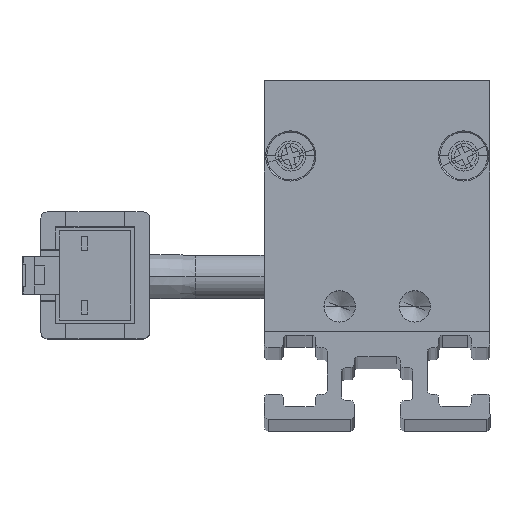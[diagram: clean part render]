
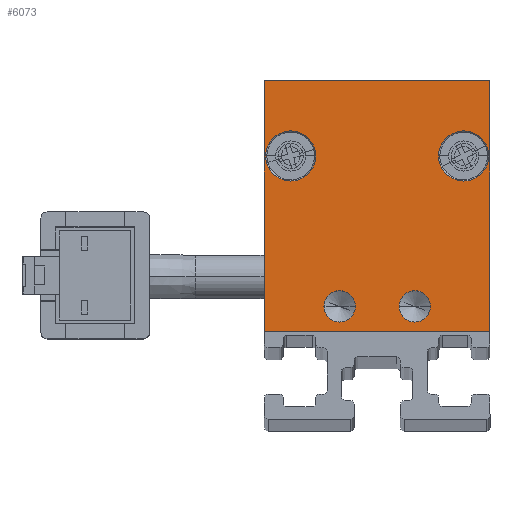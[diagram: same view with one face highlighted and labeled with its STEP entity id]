
A CAD part, top view. The second image highlights one B-rep face of the part: STEP entity #6073.
In plain terms, the highlighted planar face has unit normal (0, 0, 1) as drawn and (0, 0, -1) by its records, which use the part's own axes.
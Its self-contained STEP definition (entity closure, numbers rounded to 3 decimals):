
#51 = DIRECTION ( 'NONE',  ( 0., 0., -1. ) ) ;
#110 = DIRECTION ( 'NONE',  ( -1., 0., 0. ) ) ;
#255 = FACE_BOUND ( 'NONE', #12353, .T. ) ;
#258 = DIRECTION ( 'NONE',  ( 0., 0., -1. ) ) ;
#371 = CARTESIAN_POINT ( 'NONE',  ( 8.9, 14., -2.5 ) ) ;
#443 = LINE ( 'NONE', #3224, #928 ) ;
#786 = CARTESIAN_POINT ( 'NONE',  ( 4.25, 2., -2.5 ) ) ;
#811 = CIRCLE ( 'NONE', #7275, 1.25 ) ;
#928 = VECTOR ( 'NONE', #2283, 1000. ) ;
#1007 = CARTESIAN_POINT ( 'NONE',  ( 3., 2., -2.5 ) ) ;
#1041 = CARTESIAN_POINT ( 'NONE',  ( -9., 0., -2.5 ) ) ;
#1099 = DIRECTION ( 'NONE',  ( 0., 0., 1. ) ) ;
#1112 = VERTEX_POINT ( 'NONE', #12203 ) ;
#1139 = DIRECTION ( 'NONE',  ( -1., 0., 0. ) ) ;
#1171 = ORIENTED_EDGE ( 'NONE', *, *, #9872, .F. ) ;
#1220 = FACE_OUTER_BOUND ( 'NONE', #8906, .T. ) ;
#1250 = VERTEX_POINT ( 'NONE', #1859 ) ;
#1305 = AXIS2_PLACEMENT_3D ( 'NONE', #5720, #5783, #3805 ) ;
#1382 = VECTOR ( 'NONE', #8552, 1000. ) ;
#1694 = EDGE_CURVE ( 'NONE', #7102, #5171, #4685, .T. ) ;
#1786 = ORIENTED_EDGE ( 'NONE', *, *, #4493, .F. ) ;
#1817 = CARTESIAN_POINT ( 'NONE',  ( -3., 2., -2.5 ) ) ;
#1859 = CARTESIAN_POINT ( 'NONE',  ( -8.9, 14., -2.5 ) ) ;
#1937 = EDGE_CURVE ( 'NONE', #3406, #7102, #10231, .T. ) ;
#2283 = DIRECTION ( 'NONE',  ( 0., -1., 0. ) ) ;
#2353 = ORIENTED_EDGE ( 'NONE', *, *, #10318, .F. ) ;
#2516 = DIRECTION ( 'NONE',  ( 0., 0., -1. ) ) ;
#2657 = CIRCLE ( 'NONE', #9923, 1.25 ) ;
#2885 = ORIENTED_EDGE ( 'NONE', *, *, #6142, .F. ) ;
#2931 = AXIS2_PLACEMENT_3D ( 'NONE', #6252, #2516, #12043 ) ;
#2935 = CARTESIAN_POINT ( 'NONE',  ( 9., 0., -2.5 ) ) ;
#3016 = CIRCLE ( 'NONE', #3206, 1.25 ) ;
#3206 = AXIS2_PLACEMENT_3D ( 'NONE', #5951, #9804, #1139 ) ;
#3224 = CARTESIAN_POINT ( 'NONE',  ( -9., 20., -2.5 ) ) ;
#3232 = FACE_BOUND ( 'NONE', #5493, .T. ) ;
#3404 = VERTEX_POINT ( 'NONE', #786 ) ;
#3406 = VERTEX_POINT ( 'NONE', #2935 ) ;
#3485 = VECTOR ( 'NONE', #8760, 1000. ) ;
#3557 = EDGE_CURVE ( 'NONE', #6558, #4075, #5857, .T. ) ;
#3805 = DIRECTION ( 'NONE',  ( -1., 0., 0. ) ) ;
#4063 = PLANE ( 'NONE',  #7541 ) ;
#4075 = VERTEX_POINT ( 'NONE', #371 ) ;
#4197 = CARTESIAN_POINT ( 'NONE',  ( 9., 20., -2.5 ) ) ;
#4322 = ORIENTED_EDGE ( 'NONE', *, *, #12247, .F. ) ;
#4493 = EDGE_CURVE ( 'NONE', #8657, #1112, #2657, .T. ) ;
#4495 = DIRECTION ( 'NONE',  ( 0., 0., -1. ) ) ;
#4685 = LINE ( 'NONE', #8682, #1382 ) ;
#5171 = VERTEX_POINT ( 'NONE', #8221 ) ;
#5206 = DIRECTION ( 'NONE',  ( -1., 0., 0. ) ) ;
#5493 = EDGE_LOOP ( 'NONE', ( #1786, #5756 ) ) ;
#5685 = ORIENTED_EDGE ( 'NONE', *, *, #12265, .F. ) ;
#5720 = CARTESIAN_POINT ( 'NONE',  ( 6.9, 14., -2.5 ) ) ;
#5756 = ORIENTED_EDGE ( 'NONE', *, *, #10479, .F. ) ;
#5783 = DIRECTION ( 'NONE',  ( 0., 0., -1. ) ) ;
#5809 = VERTEX_POINT ( 'NONE', #8123 ) ;
#5857 = CIRCLE ( 'NONE', #9537, 2. ) ;
#5951 = CARTESIAN_POINT ( 'NONE',  ( 3., 2., -2.5 ) ) ;
#6073 = ADVANCED_FACE ( 'NONE', ( #7864, #9763, #255, #3232, #1220 ), #4063, .F. ) ;
#6142 = EDGE_CURVE ( 'NONE', #7528, #3406, #10936, .T. ) ;
#6252 = CARTESIAN_POINT ( 'NONE',  ( -6.9, 14., -2.5 ) ) ;
#6379 = VERTEX_POINT ( 'NONE', #9571 ) ;
#6432 = DIRECTION ( 'NONE',  ( 0., 0., -1. ) ) ;
#6440 = CARTESIAN_POINT ( 'NONE',  ( 9., 20., -2.5 ) ) ;
#6558 = VERTEX_POINT ( 'NONE', #7085 ) ;
#6592 = ORIENTED_EDGE ( 'NONE', *, *, #11885, .F. ) ;
#6762 = CIRCLE ( 'NONE', #1305, 2. ) ;
#6817 = CARTESIAN_POINT ( 'NONE',  ( -6.9, 14., -2.5 ) ) ;
#6863 = CARTESIAN_POINT ( 'NONE',  ( -9., 0., -2.5 ) ) ;
#6965 = CIRCLE ( 'NONE', #2931, 2. ) ;
#7085 = CARTESIAN_POINT ( 'NONE',  ( 4.9, 14., -2.5 ) ) ;
#7102 = VERTEX_POINT ( 'NONE', #4197 ) ;
#7275 = AXIS2_PLACEMENT_3D ( 'NONE', #1007, #51, #110 ) ;
#7278 = ORIENTED_EDGE ( 'NONE', *, *, #1694, .F. ) ;
#7528 = VERTEX_POINT ( 'NONE', #6863 ) ;
#7541 = AXIS2_PLACEMENT_3D ( 'NONE', #8939, #1099, #11813 ) ;
#7864 = FACE_BOUND ( 'NONE', #11743, .T. ) ;
#7957 = EDGE_CURVE ( 'NONE', #4075, #6558, #6762, .T. ) ;
#7998 = ORIENTED_EDGE ( 'NONE', *, *, #3557, .F. ) ;
#8008 = DIRECTION ( 'NONE',  ( -1., 0., 0. ) ) ;
#8123 = CARTESIAN_POINT ( 'NONE',  ( -4.9, 14., -2.5 ) ) ;
#8187 = ORIENTED_EDGE ( 'NONE', *, *, #1937, .F. ) ;
#8221 = CARTESIAN_POINT ( 'NONE',  ( -9., 20., -2.5 ) ) ;
#8393 = ORIENTED_EDGE ( 'NONE', *, *, #7957, .F. ) ;
#8409 = DIRECTION ( 'NONE',  ( 0., 1., 0. ) ) ;
#8552 = DIRECTION ( 'NONE',  ( -1., 0., 0. ) ) ;
#8631 = AXIS2_PLACEMENT_3D ( 'NONE', #9374, #4495, #10310 ) ;
#8657 = VERTEX_POINT ( 'NONE', #10692 ) ;
#8682 = CARTESIAN_POINT ( 'NONE',  ( -9., 20., -2.5 ) ) ;
#8760 = DIRECTION ( 'NONE',  ( 1., 0., 0. ) ) ;
#8823 = CIRCLE ( 'NONE', #8631, 1.25 ) ;
#8906 = EDGE_LOOP ( 'NONE', ( #2353, #7278, #8187, #2885 ) ) ;
#8939 = CARTESIAN_POINT ( 'NONE',  ( 0., 0., -2.5 ) ) ;
#8942 = CARTESIAN_POINT ( 'NONE',  ( 6.9, 14., -2.5 ) ) ;
#9374 = CARTESIAN_POINT ( 'NONE',  ( -3., 2., -2.5 ) ) ;
#9537 = AXIS2_PLACEMENT_3D ( 'NONE', #8942, #258, #5206 ) ;
#9571 = CARTESIAN_POINT ( 'NONE',  ( 1.75, 2., -2.5 ) ) ;
#9763 = FACE_BOUND ( 'NONE', #10471, .T. ) ;
#9804 = DIRECTION ( 'NONE',  ( 0., 0., -1. ) ) ;
#9872 = EDGE_CURVE ( 'NONE', #5809, #1250, #6965, .T. ) ;
#9923 = AXIS2_PLACEMENT_3D ( 'NONE', #1817, #6432, #10349 ) ;
#10231 = LINE ( 'NONE', #6440, #11275 ) ;
#10295 = AXIS2_PLACEMENT_3D ( 'NONE', #6817, #10656, #8008 ) ;
#10310 = DIRECTION ( 'NONE',  ( -1., 0., 0. ) ) ;
#10318 = EDGE_CURVE ( 'NONE', #5171, #7528, #443, .T. ) ;
#10349 = DIRECTION ( 'NONE',  ( -1., 0., 0. ) ) ;
#10471 = EDGE_LOOP ( 'NONE', ( #5685, #1171 ) ) ;
#10479 = EDGE_CURVE ( 'NONE', #1112, #8657, #8823, .T. ) ;
#10656 = DIRECTION ( 'NONE',  ( 0., 0., -1. ) ) ;
#10690 = CIRCLE ( 'NONE', #10295, 2. ) ;
#10692 = CARTESIAN_POINT ( 'NONE',  ( -4.25, 2., -2.5 ) ) ;
#10936 = LINE ( 'NONE', #1041, #3485 ) ;
#11275 = VECTOR ( 'NONE', #8409, 1000. ) ;
#11743 = EDGE_LOOP ( 'NONE', ( #7998, #8393 ) ) ;
#11813 = DIRECTION ( 'NONE',  ( 1., 0., 0. ) ) ;
#11885 = EDGE_CURVE ( 'NONE', #3404, #6379, #3016, .T. ) ;
#12043 = DIRECTION ( 'NONE',  ( -1., 0., 0. ) ) ;
#12203 = CARTESIAN_POINT ( 'NONE',  ( -1.75, 2., -2.5 ) ) ;
#12247 = EDGE_CURVE ( 'NONE', #6379, #3404, #811, .T. ) ;
#12265 = EDGE_CURVE ( 'NONE', #1250, #5809, #10690, .T. ) ;
#12353 = EDGE_LOOP ( 'NONE', ( #4322, #6592 ) ) ;
